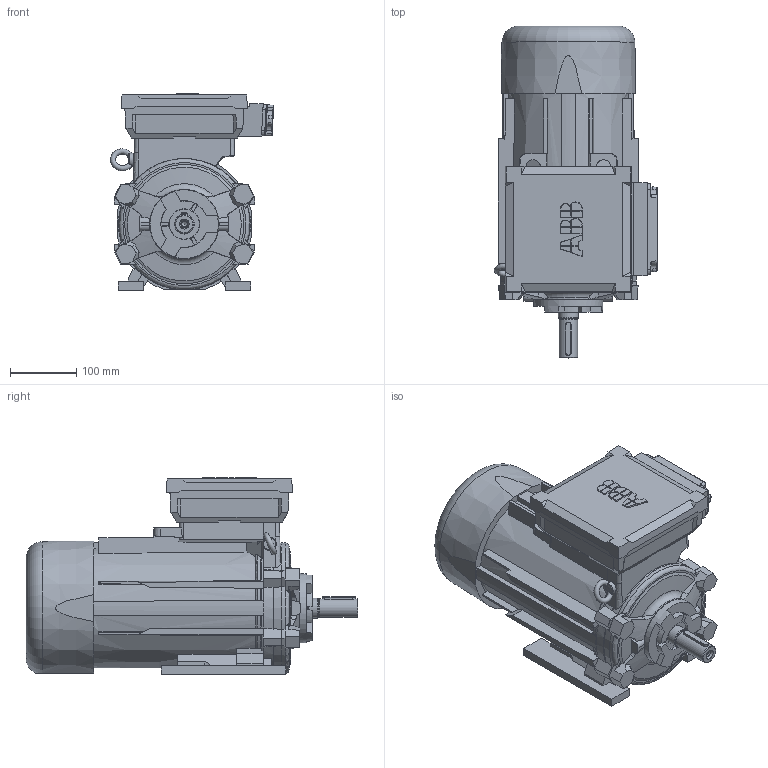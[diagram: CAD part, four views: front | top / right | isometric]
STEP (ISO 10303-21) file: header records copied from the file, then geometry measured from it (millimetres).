
FILE_DESCRIPTION(/* description */ (''),/* implementation_level */ '2;1');
FILE_NAME(/* name */ '3GZF500110-153_B_stp.stp',/* time_stamp */ '2019-09-12T11:36:45+03:00',/* author */ (''),/* organization */ (''),/* preprocessor_version */ 'ST-DEVELOPER v16.7',/* originating_system */ 'SIEMENS PLM Software NX 12.0',/* authorisation */ '');
FILE_SCHEMA (('AUTOMOTIVE_DESIGN { 1 0 10303 214 3 1 1 1 }'));
Length unit declared in the file: millimetre
Products named in the file (1): HAGE61185CCCp9im
Bounding box: 246.59 x 501 x 297 mm (x, y, z)
Volume: 15380734.8 mm3; surface area: 579913.6 mm2
Topology: 1 solids, 4 shells, 702 faces, 1927 edges, 1242 vertices
Faces by surface type: plane 449, cone 118, cylinder 58, torus 42, bspline 35
Full cylindrical faces by diameter (mm): 8.5 x1, 10.5 x1, 20 x1, 22 x2, 27.6 x1, 28 x1, 29.607 x1, 30 x2, 30.007 x1
Entity records: 24095 total; most frequent: CARTESIAN_POINT 6328, ORIENTED_EDGE 3750, DIRECTION 3260, EDGE_CURVE 1875, VERTEX_POINT 1230, AXIS2_PLACEMENT_3D 1097, LINE 1066, VECTOR 1066
